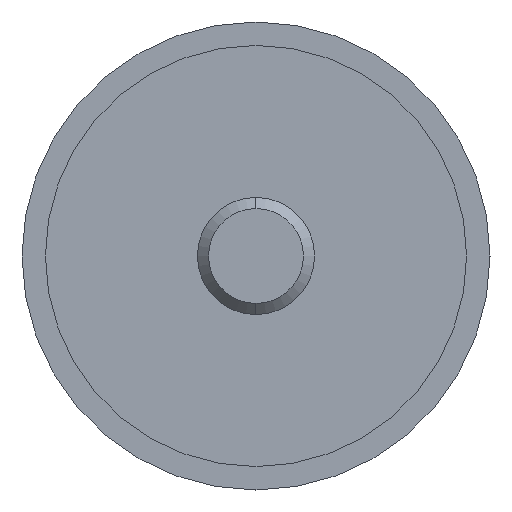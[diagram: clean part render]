
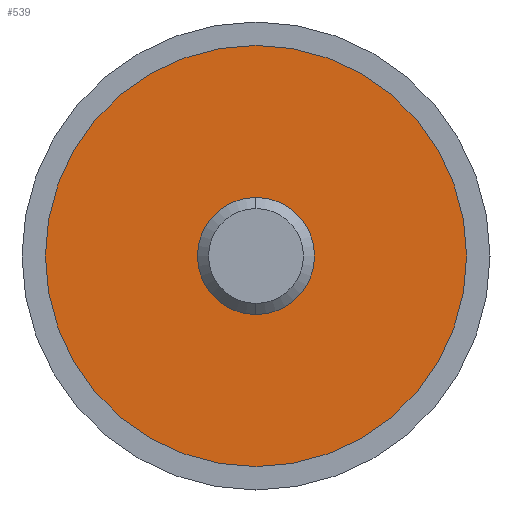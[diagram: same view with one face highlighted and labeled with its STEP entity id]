
A CAD part, left-side view. The second image highlights one B-rep face of the part: STEP entity #539.
In plain terms, the highlighted planar face has unit normal (-1, 0, 0).
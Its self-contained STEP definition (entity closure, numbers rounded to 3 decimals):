
#39 = VERTEX_POINT ( 'NONE', #637 ) ;
#57 = AXIS2_PLACEMENT_3D ( 'NONE', #569, #622, #95 ) ;
#95 = DIRECTION ( 'NONE',  ( 0., 0., -1. ) ) ;
#124 = CARTESIAN_POINT ( 'NONE',  ( -9.99, 0., 18. ) ) ;
#136 = DIRECTION ( 'NONE',  ( 0., 0., -1. ) ) ;
#142 = ORIENTED_EDGE ( 'NONE', *, *, #456, .F. ) ;
#143 = AXIS2_PLACEMENT_3D ( 'NONE', #259, #667, #136 ) ;
#156 = CARTESIAN_POINT ( 'NONE',  ( -9.99, 0., 0. ) ) ;
#185 = AXIS2_PLACEMENT_3D ( 'NONE', #156, #538, #633 ) ;
#188 = FACE_BOUND ( 'NONE', #416, .T. ) ;
#211 = AXIS2_PLACEMENT_3D ( 'NONE', #664, #558, #451 ) ;
#227 = EDGE_LOOP ( 'NONE', ( #621, #650 ) ) ;
#254 = EDGE_CURVE ( 'NONE', #365, #301, #485, .T. ) ;
#259 = CARTESIAN_POINT ( 'NONE',  ( -9.99, 18., 0. ) ) ;
#265 = CARTESIAN_POINT ( 'NONE',  ( -9.99, 0., -5. ) ) ;
#277 = CIRCLE ( 'NONE', #57, 5. ) ;
#301 = VERTEX_POINT ( 'NONE', #372 ) ;
#306 = EDGE_CURVE ( 'NONE', #301, #365, #541, .T. ) ;
#307 = PLANE ( 'NONE',  #143 ) ;
#365 = VERTEX_POINT ( 'NONE', #124 ) ;
#372 = CARTESIAN_POINT ( 'NONE',  ( -9.99, 0., -18. ) ) ;
#380 = CARTESIAN_POINT ( 'NONE',  ( -9.99, 0., 0. ) ) ;
#416 = EDGE_LOOP ( 'NONE', ( #504, #142 ) ) ;
#443 = AXIS2_PLACEMENT_3D ( 'NONE', #380, #580, #473 ) ;
#451 = DIRECTION ( 'NONE',  ( 0., 0., -1. ) ) ;
#456 = EDGE_CURVE ( 'NONE', #669, #39, #608, .T. ) ;
#473 = DIRECTION ( 'NONE',  ( 0., 0., 1. ) ) ;
#485 = CIRCLE ( 'NONE', #185, 18. ) ;
#504 = ORIENTED_EDGE ( 'NONE', *, *, #528, .F. ) ;
#528 = EDGE_CURVE ( 'NONE', #39, #669, #277, .T. ) ;
#538 = DIRECTION ( 'NONE',  ( -1., 0., 0. ) ) ;
#539 = ADVANCED_FACE ( 'NONE', ( #661, #188 ), #307, .F. ) ;
#541 = CIRCLE ( 'NONE', #443, 18. ) ;
#558 = DIRECTION ( 'NONE',  ( -1., 0., 0. ) ) ;
#569 = CARTESIAN_POINT ( 'NONE',  ( -9.99, 0., 0. ) ) ;
#580 = DIRECTION ( 'NONE',  ( -1., 0., 0. ) ) ;
#608 = CIRCLE ( 'NONE', #211, 5. ) ;
#621 = ORIENTED_EDGE ( 'NONE', *, *, #254, .T. ) ;
#622 = DIRECTION ( 'NONE',  ( -1., 0., 0. ) ) ;
#633 = DIRECTION ( 'NONE',  ( 0., 0., 1. ) ) ;
#637 = CARTESIAN_POINT ( 'NONE',  ( -9.99, 0., 5. ) ) ;
#650 = ORIENTED_EDGE ( 'NONE', *, *, #306, .T. ) ;
#661 = FACE_OUTER_BOUND ( 'NONE', #227, .T. ) ;
#664 = CARTESIAN_POINT ( 'NONE',  ( -9.99, 0., 0. ) ) ;
#667 = DIRECTION ( 'NONE',  ( 1., 0., 0. ) ) ;
#669 = VERTEX_POINT ( 'NONE', #265 ) ;
